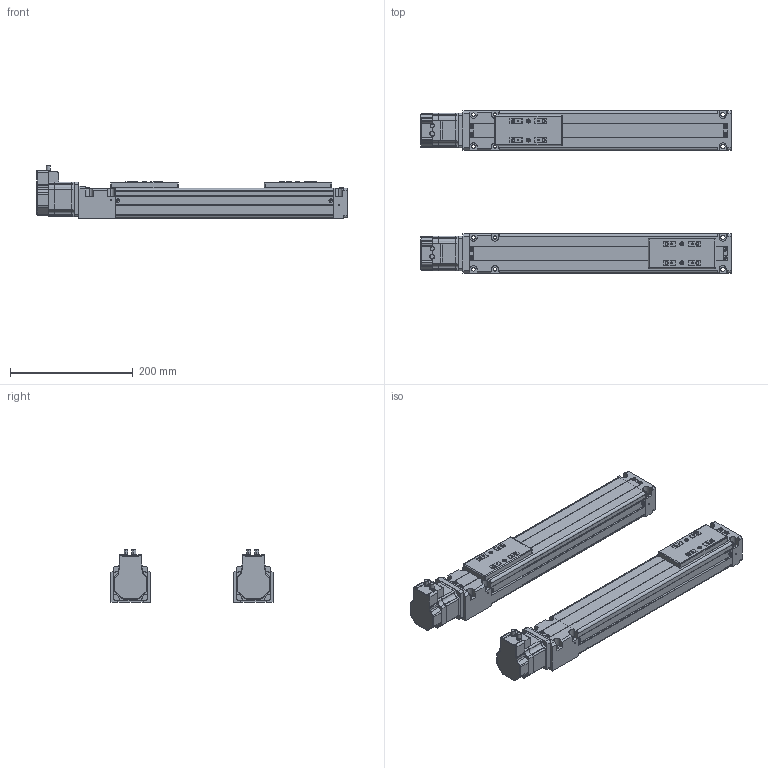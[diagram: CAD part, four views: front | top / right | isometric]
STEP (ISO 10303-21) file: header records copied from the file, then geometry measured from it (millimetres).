
FILE_DESCRIPTION(('STEP AP214'),'1');
FILE_NAME('Z:\外形図\3D DAD2\SCLT6_B\tmp0.step',' ',(' '),(' '),'XStep 1.0',' ',' ');
FILE_SCHEMA(('automotive_design'));
Length unit declared in the file: millimetre
Products named in the file (20): 11; VLAST60-06-0250-0-0N (0) (250)|_VLA-ST-60-12-0050 Slider;_VLA-ST-60-12-0050 Slider; 9; 7; 3; 4; 1; 2; 6; VLAST60-06-0250-0-0N (0) (250)|_VLA-ST-60-12-0250 Body;_VLA-ST-60-12-0250 Body; 10; 12; 5; 8
Bounding box: 506 x 264 x 85.99 mm (x, y, z)
Volume: 1344160.8 mm3; surface area: 570840.9 mm2
Topology: 20 solids, 20 shells, 1658 faces, 4366 edges, 2760 vertices
Faces by surface type: plane 992, cylinder 424, cone 156, bspline 78, sphere 8
Entity records: 66703 total; most frequent: CARTESIAN_POINT 11446, ORIENTED_EDGE 8684, DIRECTION 8558, EDGE_CURVE 4342, LINE 3142, VECTOR 3142, VERTEX_POINT 2760, AXIS2_PLACEMENT_3D 2708
